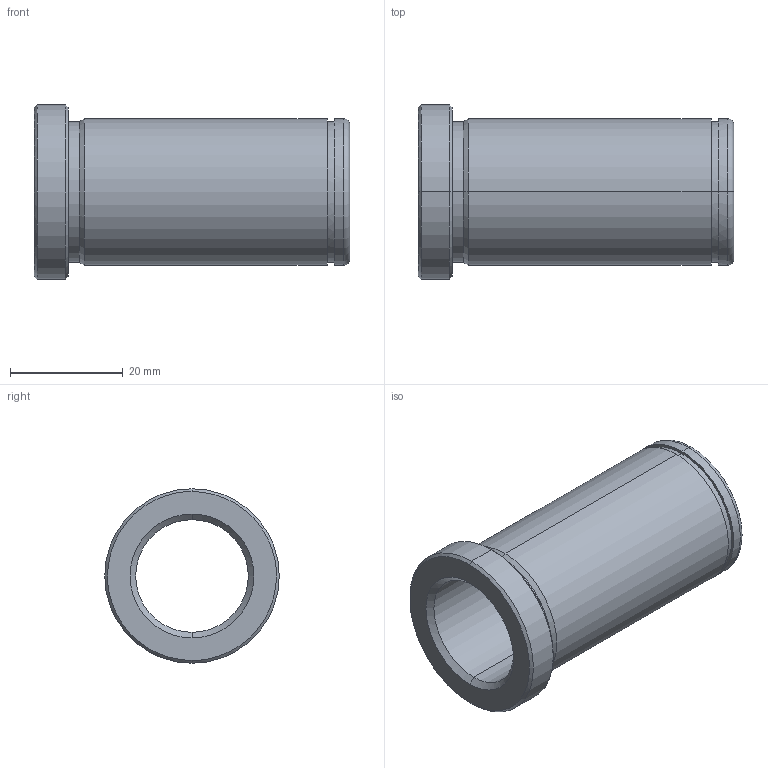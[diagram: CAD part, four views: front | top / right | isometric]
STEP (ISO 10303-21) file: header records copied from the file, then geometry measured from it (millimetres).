
FILE_DESCRIPTION(('CATIA V5 STEP Exchange'),'2;1');
FILE_NAME('C:\Users\Utente\Desktop\IO LAVORO\3D X SITO CF\X SITO\PLASTICA\553\553-20X56.stp','2021-05-23T18:07:49+00:00',('none'),('none'),'CATIA Version 5 Release 20 GA (IN-10)','CATIA V5 STEP AP203','none');
FILE_SCHEMA(('CONFIG_CONTROL_DESIGN'));
Length unit declared in the file: millimetre
Products named in the file (1): 553-20X56
Bounding box: 56 x 31 x 31 mm (x, y, z)
Volume: 13227.3 mm3; surface area: 9019.2 mm2
Topology: 1 solids, 1 shells, 29 faces, 92 edges, 68 vertices
Faces by surface type: cylinder 12, cone 8, plane 5, torus 4
Entity records: 1222 total; most frequent: CARTESIAN_POINT 368, ORIENTED_EDGE 184, DIRECTION 136, EDGE_CURVE 92, AXIS2_PLACEMENT_3D 88, VERTEX_POINT 68, CIRCLE 58, EDGE_LOOP 34
